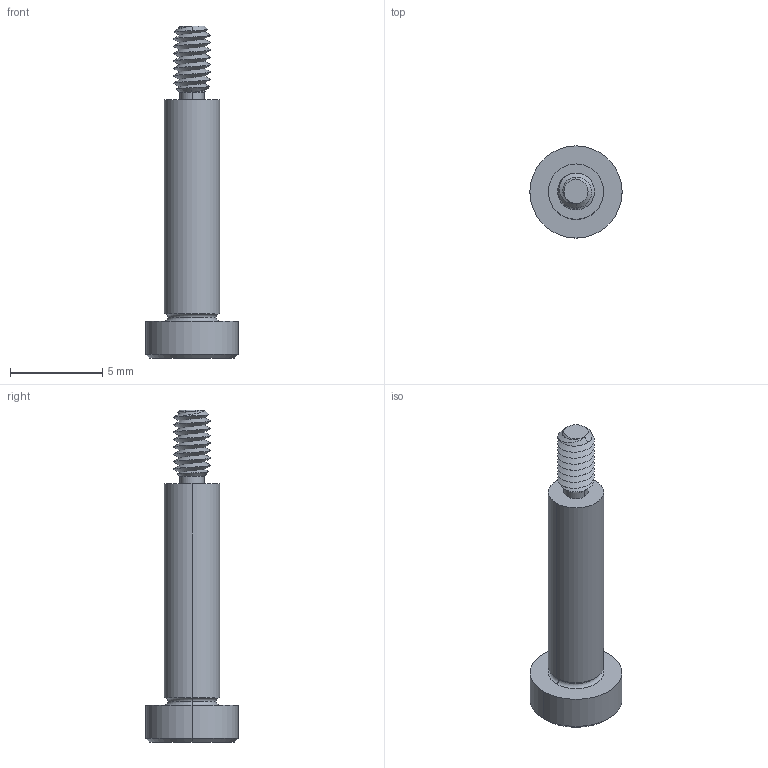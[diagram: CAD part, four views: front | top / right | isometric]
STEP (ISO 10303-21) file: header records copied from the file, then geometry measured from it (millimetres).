
FILE_DESCRIPTION (( 'STEP AP203' ), '1' );
FILE_NAME ('P0130.030-012-B2.step', '2021-11-09T20:56:27', ( '' ), ( '' ), 'SwSTEP 2.0', 'SolidWorks 2019', '' );
FILE_SCHEMA (( 'CONFIG_CONTROL_DESIGN' ));
Length unit declared in the file: millimetre
Products named in the file (1): P0130.030-012-B2
Bounding box: 5 x 5 x 18 mm (x, y, z)
Volume: 128.1 mm3; surface area: 229.2 mm2
Topology: 1 solids, 1 shells, 58 faces, 136 edges, 81 vertices
Faces by surface type: cylinder 22, plane 16, cone 14, torus 4, bspline 2
Entity records: 2452 total; most frequent: CARTESIAN_POINT 1166, ORIENTED_EDGE 268, DIRECTION 241, EDGE_CURVE 134, AXIS2_PLACEMENT_3D 97, VERTEX_POINT 81, EDGE_LOOP 61, FACE_OUTER_BOUND 58
